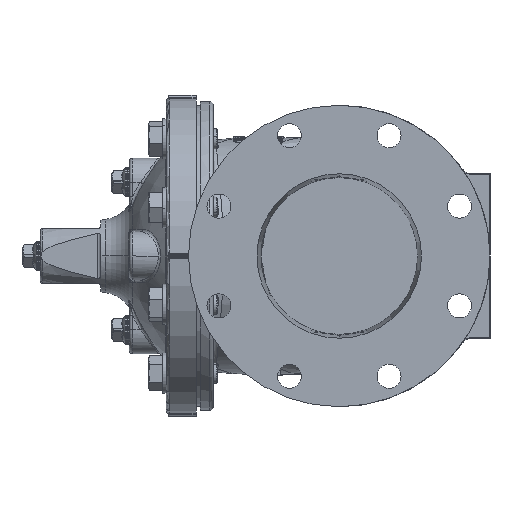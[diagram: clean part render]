
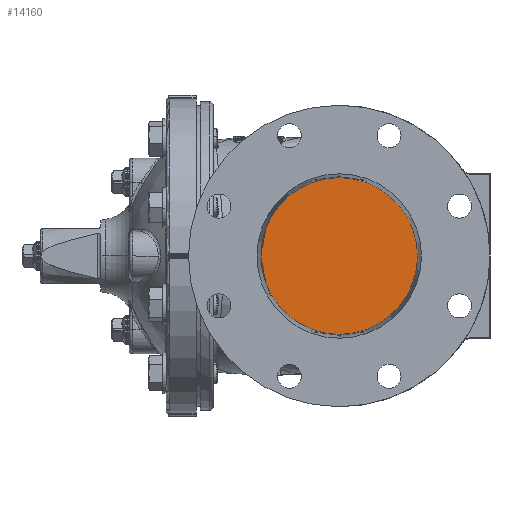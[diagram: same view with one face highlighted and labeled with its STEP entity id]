
A CAD part, left-side view. The second image highlights one B-rep face of the part: STEP entity #14160.
In plain terms, the highlighted planar face has unit normal (-1, 0, 0).
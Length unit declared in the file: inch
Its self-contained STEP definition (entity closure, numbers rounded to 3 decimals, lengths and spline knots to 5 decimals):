
#646 = CARTESIAN_POINT ( 'NONE',  ( -4.875, 2.79333, -0.32132 ) ) ;
#1009 = EDGE_LOOP ( 'NONE', ( #47693, #40023, #30620, #54810, #25334, #42513, #51768, #41812, #48061, #30696 ) ) ;
#1600 = AXIS2_PLACEMENT_3D ( 'NONE', #15169, #45802, #19596 ) ;
#2017 = CARTESIAN_POINT ( 'NONE',  ( -4.875, 2.78459, 0.35002 ) ) ;
#5073 = CARTESIAN_POINT ( 'NONE',  ( -4.875, 2.78459, -0.35001 ) ) ;
#5493 = DIRECTION ( 'NONE',  ( -1., 0., 0. ) ) ;
#6460 = CARTESIAN_POINT ( 'NONE',  ( -4.875, 2.75678, 0.60554 ) ) ;
#9611 = CARTESIAN_POINT ( 'NONE',  ( -4.875, 0., 2.86032 ) ) ;
#9984 = B_SPLINE_CURVE_WITH_KNOTS ( 'NONE', 3,
 ( #17220, #43455, #52227, #26073 ),
 .UNSPECIFIED., .F., .F.,
 ( 4, 4 ),
 ( 0.00032, 0.00659 ),
 .UNSPECIFIED. ) ;
#10302 = VERTEX_POINT ( 'NONE', #39405 ) ;
#10836 = CARTESIAN_POINT ( 'NONE',  ( -4.875, 2.79336, 0.32126 ) ) ;
#13043 = AXIS2_PLACEMENT_3D ( 'NONE', #42375, #16151, #46746 ) ;
#13541 = CIRCLE ( 'NONE', #51536, 2.86032 ) ;
#13685 = EDGE_CURVE ( 'NONE', #34984, #10302, #31406, .T. ) ;
#14160 = ADVANCED_FACE ( 'NONE', ( #44457 ), #31798, .T. ) ;
#14725 = EDGE_CURVE ( 'NONE', #49586, #33996, #32150, .T. ) ;
#15169 = CARTESIAN_POINT ( 'NONE',  ( -4.875, 0., 0. ) ) ;
#15288 = CARTESIAN_POINT ( 'NONE',  ( -4.875, 2.80912, 0.29548 ) ) ;
#15353 = DIRECTION ( 'NONE',  ( -1., 0., 0. ) ) ;
#16044 = EDGE_CURVE ( 'NONE', #33996, #34984, #13541, .T. ) ;
#16151 = DIRECTION ( 'NONE',  ( -1., 0., 0. ) ) ;
#17220 = CARTESIAN_POINT ( 'NONE',  ( -4.875, 2.78375, -0.36015 ) ) ;
#17317 = B_SPLINE_CURVE_WITH_KNOTS ( 'NONE', 3,
 ( #31179, #35566, #48747, #22573, #53145, #26993, #646, #31380, #5073, #35746 ),
 .UNSPECIFIED., .F., .F.,
 ( 4, 2, 2, 2, 4 ),
 ( 0.00123, 0.002, 0.00276, 0.00352, 0.00429 ),
 .UNSPECIFIED. ) ;
#18588 = CARTESIAN_POINT ( 'NONE',  ( -4.875, 2.75678, 0.60554 ) ) ;
#19349 = CARTESIAN_POINT ( 'NONE',  ( -4.875, 2.68524, -0.98533 ) ) ;
#19596 = DIRECTION ( 'NONE',  ( 0., 0., 1. ) ) ;
#19706 = CARTESIAN_POINT ( 'NONE',  ( -4.875, 2.83085, 0.27439 ) ) ;
#22098 = CARTESIAN_POINT ( 'NONE',  ( -4.875, 2.84811, 0.26399 ) ) ;
#22498 = B_SPLINE_CURVE_WITH_KNOTS ( 'NONE', 3,
 ( #32728, #2017, #37092, #10836, #41512, #15288, #45905, #19706, #50285, #24097 ),
 .UNSPECIFIED., .F., .F.,
 ( 4, 2, 2, 2, 4 ),
 ( 0., 0.00076, 0.00153, 0.00229, 0.00305 ),
 .UNSPECIFIED. ) ;
#22573 = CARTESIAN_POINT ( 'NONE',  ( -4.875, 2.8158, -0.2878 ) ) ;
#23010 = CARTESIAN_POINT ( 'NONE',  ( -4.875, 2.7678, 0.52396 ) ) ;
#23762 = CARTESIAN_POINT ( 'NONE',  ( -4.875, 2.73959, -0.73285 ) ) ;
#24097 = CARTESIAN_POINT ( 'NONE',  ( -4.875, 2.84811, 0.26399 ) ) ;
#24129 = CARTESIAN_POINT ( 'NONE',  ( -4.875, 2.68524, 0.98533 ) ) ;
#24580 = CARTESIAN_POINT ( 'NONE',  ( -4.875, 2.75678, -0.60554 ) ) ;
#24966 = AXIS2_PLACEMENT_3D ( 'NONE', #41582, #15353, #45969 ) ;
#24971 = CARTESIAN_POINT ( 'NONE',  ( -4.875, 0., 0. ) ) ;
#25112 = B_SPLINE_CURVE_WITH_KNOTS ( 'NONE', 3,
 ( #6460, #45933, #50316, #24129 ),
 .UNSPECIFIED., .F., .F.,
 ( 4, 4 ),
 ( 0.10911, 0.119 ),
 .UNSPECIFIED. ) ;
#25334 = ORIENTED_EDGE ( 'NONE', *, *, #53060, .T. ) ;
#25683 = CIRCLE ( 'NONE', #24966, 2.86032 ) ;
#25977 = CARTESIAN_POINT ( 'NONE',  ( -4.875, 0., -2.86032 ) ) ;
#26073 = CARTESIAN_POINT ( 'NONE',  ( -4.875, 2.75678, -0.60554 ) ) ;
#26993 = CARTESIAN_POINT ( 'NONE',  ( -4.875, 2.79794, -0.31212 ) ) ;
#27006 = AXIS2_PLACEMENT_3D ( 'NONE', #27403, #5493, #36175 ) ;
#27403 = CARTESIAN_POINT ( 'NONE',  ( -4.875, 0., 0. ) ) ;
#27423 = CARTESIAN_POINT ( 'NONE',  ( -4.875, 2.78375, 0.36015 ) ) ;
#27929 = EDGE_CURVE ( 'NONE', #45676, #10302, #25112, .T. ) ;
#29372 = DIRECTION ( 'NONE',  ( 0., 0., 1. ) ) ;
#29917 = EDGE_CURVE ( 'NONE', #45676, #49988, #52218, .T. ) ;
#30620 = ORIENTED_EDGE ( 'NONE', *, *, #39387, .T. ) ;
#30696 = ORIENTED_EDGE ( 'NONE', *, *, #27929, .F. ) ;
#31179 = CARTESIAN_POINT ( 'NONE',  ( -4.875, 2.84811, -0.26399 ) ) ;
#31380 = CARTESIAN_POINT ( 'NONE',  ( -4.875, 2.78671, -0.34022 ) ) ;
#31406 = CIRCLE ( 'NONE', #1600, 2.86032 ) ;
#31798 = PLANE ( 'NONE',  #27006 ) ;
#32150 = CIRCLE ( 'NONE', #13043, 2.86032 ) ;
#32376 = B_SPLINE_CURVE_WITH_KNOTS ( 'NONE', 3,
 ( #19349, #45559, #23762, #54324 ),
 .UNSPECIFIED., .F., .F.,
 ( 4, 4 ),
 ( 0.0685, 0.07831 ),
 .UNSPECIFIED. ) ;
#32728 = CARTESIAN_POINT ( 'NONE',  ( -4.875, 2.78375, 0.36015 ) ) ;
#33211 = CARTESIAN_POINT ( 'NONE',  ( -4.875, 2.78375, -0.36015 ) ) ;
#33996 = VERTEX_POINT ( 'NONE', #25977 ) ;
#34984 = VERTEX_POINT ( 'NONE', #9611 ) ;
#35221 = VERTEX_POINT ( 'NONE', #41789 ) ;
#35566 = CARTESIAN_POINT ( 'NONE',  ( -4.875, 2.83916, -0.26865 ) ) ;
#35746 = CARTESIAN_POINT ( 'NONE',  ( -4.875, 2.78375, -0.36015 ) ) ;
#36175 = DIRECTION ( 'NONE',  ( 0., 0., 1. ) ) ;
#37092 = CARTESIAN_POINT ( 'NONE',  ( -4.875, 2.7867, 0.34022 ) ) ;
#39297 = CARTESIAN_POINT ( 'NONE',  ( -4.875, 2.68524, -0.98533 ) ) ;
#39387 = EDGE_CURVE ( 'NONE', #55531, #35221, #25683, .T. ) ;
#39405 = CARTESIAN_POINT ( 'NONE',  ( -4.875, 2.68524, 0.98533 ) ) ;
#40023 = ORIENTED_EDGE ( 'NONE', *, *, #51650, .T. ) ;
#40483 = VERTEX_POINT ( 'NONE', #33211 ) ;
#41086 = EDGE_CURVE ( 'NONE', #49586, #48158, #32376, .T. ) ;
#41512 = CARTESIAN_POINT ( 'NONE',  ( -4.875, 2.79795, 0.31211 ) ) ;
#41582 = CARTESIAN_POINT ( 'NONE',  ( -4.875, 0., 0. ) ) ;
#41789 = CARTESIAN_POINT ( 'NONE',  ( -4.875, 2.84811, -0.26399 ) ) ;
#41812 = ORIENTED_EDGE ( 'NONE', *, *, #16044, .T. ) ;
#42375 = CARTESIAN_POINT ( 'NONE',  ( -4.875, 0., 0. ) ) ;
#42513 = ORIENTED_EDGE ( 'NONE', *, *, #41086, .F. ) ;
#43455 = CARTESIAN_POINT ( 'NONE',  ( -4.875, 2.77689, -0.44218 ) ) ;
#44457 = FACE_OUTER_BOUND ( 'NONE', #1009, .T. ) ;
#45559 = CARTESIAN_POINT ( 'NONE',  ( -4.875, 2.71627, -0.85951 ) ) ;
#45676 = VERTEX_POINT ( 'NONE', #45713 ) ;
#45713 = CARTESIAN_POINT ( 'NONE',  ( -4.875, 2.75678, 0.60554 ) ) ;
#45802 = DIRECTION ( 'NONE',  ( -1., 0., 0. ) ) ;
#45905 = CARTESIAN_POINT ( 'NONE',  ( -4.875, 2.81585, 0.28776 ) ) ;
#45933 = CARTESIAN_POINT ( 'NONE',  ( -4.875, 2.73949, 0.73358 ) ) ;
#45969 = DIRECTION ( 'NONE',  ( 0., 0., 1. ) ) ;
#46746 = DIRECTION ( 'NONE',  ( 0., 0., 1. ) ) ;
#47693 = ORIENTED_EDGE ( 'NONE', *, *, #29917, .T. ) ;
#48061 = ORIENTED_EDGE ( 'NONE', *, *, #13685, .T. ) ;
#48158 = VERTEX_POINT ( 'NONE', #24580 ) ;
#48747 = CARTESIAN_POINT ( 'NONE',  ( -4.875, 2.83091, -0.27434 ) ) ;
#49586 = VERTEX_POINT ( 'NONE', #39297 ) ;
#49892 = EDGE_CURVE ( 'NONE', #35221, #40483, #17317, .T. ) ;
#49988 = VERTEX_POINT ( 'NONE', #50833 ) ;
#50285 = CARTESIAN_POINT ( 'NONE',  ( -4.875, 2.8391, 0.26868 ) ) ;
#50316 = CARTESIAN_POINT ( 'NONE',  ( -4.875, 2.71609, 0.86027 ) ) ;
#50833 = CARTESIAN_POINT ( 'NONE',  ( -4.875, 2.78375, 0.36015 ) ) ;
#51536 = AXIS2_PLACEMENT_3D ( 'NONE', #24971, #55515, #29372 ) ;
#51650 = EDGE_CURVE ( 'NONE', #49988, #55531, #22498, .T. ) ;
#51768 = ORIENTED_EDGE ( 'NONE', *, *, #14725, .T. ) ;
#52218 = B_SPLINE_CURVE_WITH_KNOTS ( 'NONE', 3,
 ( #18588, #23010, #53572, #27423 ),
 .UNSPECIFIED., .F., .F.,
 ( 4, 4 ),
 ( 0., 0.00627 ),
 .UNSPECIFIED. ) ;
#52227 = CARTESIAN_POINT ( 'NONE',  ( -4.875, 2.7678, -0.52396 ) ) ;
#53060 = EDGE_CURVE ( 'NONE', #40483, #48158, #9984, .T. ) ;
#53145 = CARTESIAN_POINT ( 'NONE',  ( -4.875, 2.80913, -0.29546 ) ) ;
#53572 = CARTESIAN_POINT ( 'NONE',  ( -4.875, 2.77689, 0.44218 ) ) ;
#54324 = CARTESIAN_POINT ( 'NONE',  ( -4.875, 2.75678, -0.60554 ) ) ;
#54810 = ORIENTED_EDGE ( 'NONE', *, *, #49892, .T. ) ;
#55515 = DIRECTION ( 'NONE',  ( -1., 0., 0. ) ) ;
#55531 = VERTEX_POINT ( 'NONE', #22098 ) ;
